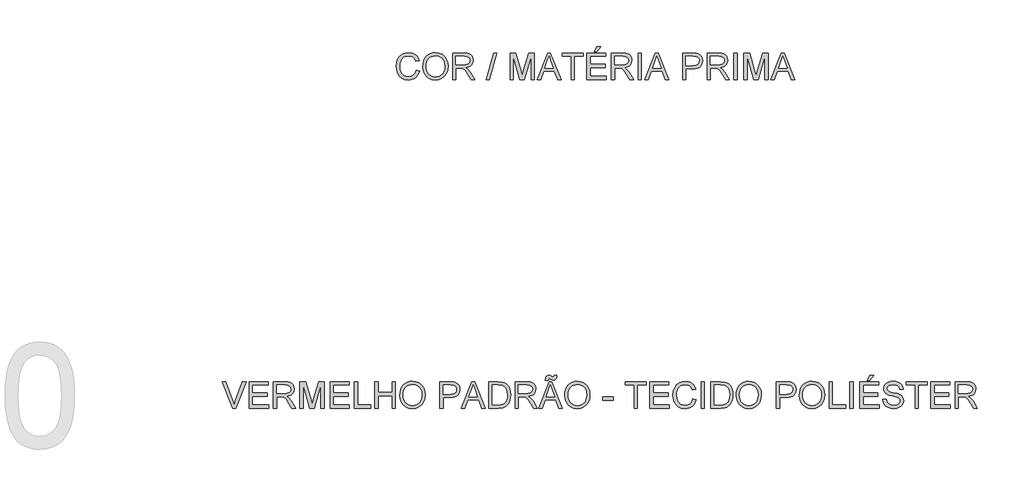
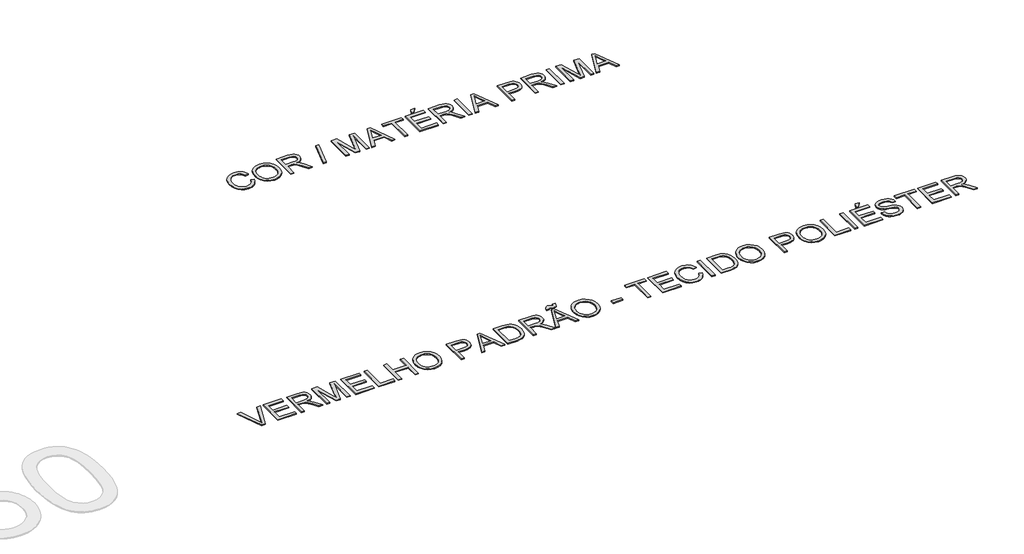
# One storey, part 26 of 35: 2 proxies.
"""IFC4 building model written with IfcOpenShell, lengths in millimetres."""

from ifc_helpers import new_model, si_unit, origin, origin_with_axes, place, context, project, spatial, polyline, outline, extrude, element, save

model = new_model("IFC4")

# Units and contexts
model_context = context("Model", 3, world=origin())
ifc_project = project(units=[si_unit("LENGTHUNIT", "METRE", prefix="MILLI")], contexts=[model_context])

# Site, building, storey
site = spatial("IfcSite", under=ifc_project)
building = spatial("IfcBuilding", under=site)
storey = spatial("IfcBuildingStorey", under=building, Name="Marelli - Linha YOU - Planta Baixa", Elevation=0.0)

# Proxies
placement = place(None, origin())
element("IfcBuildingElementProxy", 1, Name="300mm Arial", ObjectType="300mm Arial", at=placement, inside=storey, context=model_context, shape_type="SweptSolid", body=[
    extrude(outline(polyline([(-20789.4399329, -20030.5663201), (-20909.3694633, -19729.1973896), (-20869.0495966, -19729.1973896), (-20788.7777453, -19946.3213432), (-20772.5173611, -19995.2496485), (-20756.4777061, -19946.3213432), (-20675.9851255, -19729.1973896), (-20635.6652589, -19729.1973896), (-20750.5180178, -20030.5663201), (-20789.4399329, -20030.5663201)])), origin_with_axes(), (0.0, 0.0, 1.0), 10.0),
    extrude(outline(polyline([(-20600.6428929, -20030.5663201), (-20600.6428929, -19729.1973896), (-20384.0339742, -19729.1973896), (-20384.0339742, -19766.8685059), (-20562.9717766, -19766.8685059), (-20562.9717766, -19856.3374072), (-20393.4517532, -19856.3374072), (-20393.4517532, -19894.0085235), (-20562.9717766, -19894.0085235), (-20562.9717766, -19992.8952038), (-20379.3250846, -19992.8952038), (-20379.3250846, -20030.5663201), (-20600.6428929, -20030.5663201)])), origin_with_axes(), (0.0, 0.0, 1.0), 10.0),
    extrude(outline(polyline([(-20322.8184102, -20030.5663201), (-20322.8184102, -19729.1973896), (-20192.9560659, -19729.1973896), (-20158.0532616, -19731.2299376), (-20132.6602069, -19737.3275817), (-20114.1005602, -19748.5847708), (-20099.6979801, -19766.0959537), (-20090.454945, -19787.8101885), (-20087.3739333, -19811.6765329), (-20092.4782959, -19841.3646099), (-20107.791384, -19865.9759154), (-20119.3911631, -19876.0052983), (-20133.7730499, -19884.0205273), (-20170.8831462, -19894.0085235), (-20149.472414, -19910.1217548), (-20118.9382084, -19948.8965171), (-20068.6855279, -20030.5663201), (-20112.4634853, -20030.5663201), (-20151.679706, -19968.0999573), (-20180.0066196, -19926.750021), (-20199.9090356, -19907.2154871), (-20217.8248887, -19900.0417882), (-20239.6770793, -19898.717413), (-20285.1472939, -19898.717413), (-20285.1472939, -20030.5663201), (-20322.8184102, -20030.5663201)]), holes=[polyline([(-20285.1472939, -19861.0462967), (-20200.8287406, -19861.0462967), (-20176.6129082, -19859.7127245), (-20157.8233353, -19855.7120078), (-20143.6782726, -19848.7774322), (-20133.3959709, -19838.6422832), (-20127.1327799, -19826.3826157), (-20125.0450496, -19813.0744845), (-20129.0273722, -19794.6987789), (-20140.97434, -19779.8915286), (-20161.5297464, -19770.1242616), (-20191.3373851, -19766.8685059), (-20285.1472939, -19766.8685059), (-20285.1472939, -19861.0462967)])]), origin_with_axes(), (0.0, 0.0, 1.0), 10.0),
    extrude(outline(polyline([(-20021.4494797, -20030.5663201), (-20021.4494797, -19729.1973896), (-19956.6286722, -19729.1973896), (-19894.9716498, -19941.6124536), (-19882.5372383, -19985.9790223), (-19869.0727573, -19937.9336337), (-19808.4458045, -19729.1973896), (-19743.624997, -19729.1973896), (-19743.624997, -20030.5663201), (-19781.2961133, -20030.5663201), (-19781.2961133, -19766.8685059), (-19857.0062279, -20030.5663201), (-19908.0682488, -20030.5663201), (-19983.7783634, -19766.8685059), (-19983.7783634, -20030.5663201), (-20021.4494797, -20030.5663201)])), origin_with_axes(), (0.0, 0.0, 1.0), 10.0),
    extrude(outline(polyline([(-19677.7005434, -20030.5663201), (-19677.7005434, -19729.1973896), (-19461.0916247, -19729.1973896), (-19461.0916247, -19766.8685059), (-19640.0294271, -19766.8685059), (-19640.0294271, -19856.3374072), (-19470.5094037, -19856.3374072), (-19470.5094037, -19894.0085235), (-19640.0294271, -19894.0085235), (-19640.0294271, -19992.8952038), (-19456.3827351, -19992.8952038), (-19456.3827351, -20030.5663201), (-19677.7005434, -20030.5663201)])), origin_with_axes(), (0.0, 0.0, 1.0), 10.0),
    extrude(outline(polyline([(-19399.8760607, -20030.5663201), (-19399.8760607, -19729.1973896), (-19362.2049444, -19729.1973896), (-19362.2049444, -19992.8952038), (-19211.5204791, -19992.8952038), (-19211.5204791, -20030.5663201), (-19399.8760607, -20030.5663201)])), origin_with_axes(), (0.0, 0.0, 1.0), 10.0),
    extrude(outline(polyline([(-19169.1404733, -20030.5663201), (-19169.1404733, -19729.1973896), (-19131.469357, -19729.1973896), (-19131.469357, -19851.6285176), (-18971.3671127, -19851.6285176), (-18971.3671127, -19729.1973896), (-18933.6959964, -19729.1973896), (-18933.6959964, -20030.5663201), (-18971.3671127, -20030.5663201), (-18971.3671127, -19889.2996339), (-19131.469357, -19889.2996339), (-19131.469357, -20030.5663201), (-19169.1404733, -20030.5663201)])), origin_with_axes(), (0.0, 0.0, 1.0), 10.0),
    extrude(outline(polyline([(-18881.8982115, -19883.8549804), (-18879.3874168, -19848.5061192), (-18871.855033, -19817.213157), (-18859.3010599, -19789.9760937), (-18841.7254976, -19766.7949295), (-18820.1814082, -19748.2858666), (-18795.7218541, -19735.0651074), (-18768.3468351, -19727.1326519), (-18738.0563513, -19724.4885001), (-18698.527431, -19729.454907), (-18663.0820007, -19744.3541278), (-18633.6514411, -19768.1376988), (-18612.1671326, -19799.7571563), (-18599.0337454, -19837.68579), (-18594.6559496, -19880.3968896), (-18599.2636716, -19923.6782064), (-18613.0868376, -19962.140269), (-18635.3620924, -19993.8149087), (-18665.3260809, -20016.733957), (-18700.4680085, -20030.6398965), (-18738.2770805, -20035.2752096), (-18778.4130062, -20030.1524528), (-18814.0607716, -20014.7841825), (-18843.4177548, -19990.5591531), (-18864.6813341, -19958.8661192), (-18877.5939921, -19922.3998164), (-18881.8982115, -19883.8549804)]), holes=[polyline([(-18844.2270952, -19884.2228624), (-18842.3439992, -19909.1974513), (-18836.6947113, -19931.3669401), (-18827.2792315, -19950.7313286), (-18814.0975597, -19967.2906169), (-18798.0739996, -19980.5527628), (-18780.1328545, -19990.0257242), (-18760.2741246, -19995.709501), (-18738.4978097, -19997.6040933), (-18716.3490144, -19995.6911069), (-18696.2557596, -19989.9521478), (-18678.2180456, -19980.3872159), (-18662.2358721, -19966.9963113), (-18649.1507694, -19950.0875351), (-18639.8042675, -19929.9689885), (-18634.1963663, -19906.6406715), (-18632.3270659, -19880.102584), (-18635.5276393, -19846.7540812), (-18645.1293594, -19817.9305269), (-18660.8839058, -19794.358488), (-18682.5429583, -19776.7645316), (-18708.671777, -19765.8108452), (-18737.8356221, -19762.1596164), (-18758.8554796, -19763.9185522), (-18778.3578239, -19769.1953595), (-18796.342655, -19777.9900385), (-18812.8099728, -19790.302589), (-18826.5549638, -19806.7262208), (-18836.3728146, -19827.8541437), (-18842.263525, -19853.6863575), (-18844.2270952, -19884.2228624)])]), origin_with_axes(), (0.0, 0.0, 1.0), 10.0),
    extrude(outline(polyline([(-18425.1359262, -20030.5663201), (-18425.1359262, -19729.1973896), (-18313.4469525, -19729.1973896), (-18268.4181963, -19732.0668692), (-18248.3410364, -19737.4287493), (-18231.8139378, -19746.1567496), (-18218.5058066, -19758.6463433), (-18208.0855491, -19775.2930036), (-18201.3533086, -19794.9287051), (-18199.1092284, -19816.3854225), (-18200.6244424, -19834.8852883), (-18205.1700843, -19851.9044291), (-18212.7461541, -19867.4428449), (-18223.3526519, -19881.5005356), (-18237.9138811, -19893.1531978), (-18257.3541453, -19901.476528), (-18281.6734444, -19906.470526), (-18310.8717785, -19908.1351921), (-18387.4648099, -19908.1351921), (-18387.4648099, -20030.5663201), (-18425.1359262, -20030.5663201)]), holes=[polyline([(-18387.4648099, -19870.4640758), (-18308.6644866, -19870.4640758), (-18275.2608014, -19867.005985), (-18253.1878817, -19856.6317127), (-18240.882229, -19839.9850525), (-18236.7803447, -19817.7097977), (-18239.1991688, -19800.7872259), (-18246.4556412, -19786.5134045), (-18257.6484509, -19775.7712502), (-18271.8762871, -19769.4436799), (-18309.5474034, -19766.8685059), (-18387.4648099, -19766.8685059), (-18387.4648099, -19870.4640758)])]), origin_with_axes(), (0.0, 0.0, 1.0), 10.0),
    extrude(outline(polyline([(-18182.4073858, -20030.5663201), (-18062.1099734, -19729.1973896), (-18030.0306634, -19729.1973896), (-17909.733251, -20030.5663201), (-17949.5380829, -20030.5663201), (-17984.045414, -19936.3885293), (-18108.1687992, -19936.3885293), (-18142.602554, -20030.5663201), (-18182.4073858, -20030.5663201)]), holes=[polyline([(-18094.3364362, -19898.717413), (-17997.8042007, -19898.717413), (-18024.9538919, -19824.6259792), (-18046.0703184, -19766.8685059), (-18064.8323002, -19818.1512561), (-18094.3364362, -19898.717413)])]), origin_with_axes(), (0.0, 0.0, 1.0), 10.0),
    extrude(outline(polyline([(-17869.4869607, -20030.5663201), (-17869.4869607, -19729.1973896), (-17765.5235089, -19729.1973896), (-17711.7391612, -19733.5383972), (-17687.7164669, -19741.9077126), (-17667.446169, -19755.0962821), (-17646.605654, -19778.0521186), (-17631.7616155, -19806.5997614), (-17622.8772653, -19840.1873876), (-17619.9158152, -19878.2631741), (-17621.9207721, -19910.6091985), (-17627.9356427, -19939.0740679), (-17637.0959044, -19963.3082943), (-17648.5370344, -19982.9623899), (-17661.7072099, -19998.477813), (-17676.0546077, -20010.2960221), (-17692.526524, -20019.0608107), (-17712.070255, -20025.4159721), (-17760.5203138, -20030.5663201), (-17869.4869607, -20030.5663201)]), holes=[polyline([(-17831.8158444, -19992.8952038), (-17765.1556269, -19992.8952038), (-17737.5828714, -19991.5340404), (-17716.6687799, -19987.4505502), (-17700.8866423, -19980.8838566), (-17688.7097483, -19972.0730828), (-17675.6223463, -19955.7667134), (-17665.7907, -19934.6594839), (-17659.6378736, -19908.6594239), (-17657.5869315, -19877.6745629), (-17661.6060423, -19836.6189322), (-17673.6633747, -19806.3054558), (-17691.4780603, -19785.4833349), (-17712.7692308, -19772.9017706), (-17734.4374803, -19768.3768221), (-17766.1856965, -19766.8685059), (-17831.8158444, -19766.8685059), (-17831.8158444, -19992.8952038)])]), origin_with_axes(), (0.0, 0.0, 1.0), 10.0),
    extrude(outline(polyline([(-17568.1180303, -20030.5663201), (-17568.1180303, -19729.1973896), (-17438.255686, -19729.1973896), (-17403.3528817, -19731.2299376), (-17377.959827, -19737.3275817), (-17359.4001803, -19748.5847708), (-17344.9976002, -19766.0959537), (-17335.7545651, -19787.8101885), (-17332.6735534, -19811.6765329), (-17337.7779161, -19841.3646099), (-17353.0910041, -19865.9759154), (-17364.6907833, -19876.0052983), (-17379.07267, -19884.0205273), (-17416.1827663, -19894.0085235), (-17394.7720342, -19910.1217548), (-17364.2378286, -19948.8965171), (-17313.985148, -20030.5663201), (-17357.7631054, -20030.5663201), (-17396.9793261, -19968.0999573), (-17425.3062398, -19926.750021), (-17445.2086557, -19907.2154871), (-17463.1245089, -19900.0417882), (-17484.9766994, -19898.717413), (-17530.446914, -19898.717413), (-17530.446914, -20030.5663201), (-17568.1180303, -20030.5663201)]), holes=[polyline([(-17530.446914, -19861.0462967), (-17446.1283607, -19861.0462967), (-17421.9125284, -19859.7127245), (-17403.1229554, -19855.7120078), (-17388.9778927, -19848.7774322), (-17378.695591, -19838.6422832), (-17372.4324, -19826.3826157), (-17370.3446697, -19813.0744845), (-17374.3269923, -19794.6987789), (-17386.2739601, -19779.8915286), (-17406.8293666, -19770.1242616), (-17436.6370052, -19766.8685059), (-17530.446914, -19766.8685059), (-17530.446914, -19861.0462967)])]), origin_with_axes(), (0.0, 0.0, 1.0), 10.0),
    extrude(outline(polyline([(-17224.369094, -19710.3618315), (-17221.5180085, -19687.2036599), (-17212.6704465, -19669.2326244), (-17199.3347242, -19657.6995239), (-17182.7248521, -19653.855157), (-17168.8189127, -19656.8901835), (-17152.5585285, -19665.9952628), (-17137.3282139, -19672.6907152), (-17129.3451746, -19668.9015306), (-17125.4824137, -19653.855157), (-17092.5201869, -19653.855157), (-17095.8035337, -19678.5768271), (-17104.4763518, -19696.2351629), (-17117.3798127, -19706.8301643), (-17133.3550884, -19710.3618315), (-17147.3529983, -19707.4923519), (-17163.15353, -19698.8839132), (-17179.0460322, -19691.5262733), (-17188.0223529, -19696.3087393), (-17191.4068672, -19710.3618315), (-17224.369094, -19710.3618315)])), origin_with_axes(), (0.0, 0.0, 1.0), 10.0),
    extrude(outline(polyline([(-17301.8450422, -20030.5663201), (-17181.5476298, -19729.1973896), (-17149.4683198, -19729.1973896), (-17029.1709074, -20030.5663201), (-17068.9757392, -20030.5663201), (-17103.4830704, -19936.3885293), (-17227.6064555, -19936.3885293), (-17262.0402103, -20030.5663201), (-17301.8450422, -20030.5663201)]), holes=[polyline([(-17213.7740925, -19898.717413), (-17117.241857, -19898.717413), (-17144.3915482, -19824.6259792), (-17165.5079748, -19766.8685059), (-17184.2699565, -19818.1512561), (-17213.7740925, -19898.717413)])]), origin_with_axes(), (0.0, 0.0, 1.0), 10.0),
    extrude(outline(polyline([(-17003.0512857, -19883.8549804), (-17000.5404911, -19848.5061192), (-16993.0081072, -19817.213157), (-16980.4541341, -19789.9760937), (-16962.8785718, -19766.7949295), (-16941.3344825, -19748.2858666), (-16916.8749283, -19735.0651074), (-16889.4999094, -19727.1326519), (-16859.2094256, -19724.4885001), (-16819.6805052, -19729.454907), (-16784.235075, -19744.3541278), (-16754.8045153, -19768.1376988), (-16733.3202068, -19799.7571563), (-16720.1868196, -19837.68579), (-16715.8090239, -19880.3968896), (-16720.4167458, -19923.6782064), (-16734.2399118, -19962.140269), (-16756.5151666, -19993.8149087), (-16786.4791551, -20016.733957), (-16821.6210827, -20030.6398965), (-16859.4301548, -20035.2752096), (-16899.5660805, -20030.1524528), (-16935.2138458, -20014.7841825), (-16964.570829, -19990.5591531), (-16985.8344083, -19958.8661192), (-16998.7470664, -19922.3998164), (-17003.0512857, -19883.8549804)]), holes=[polyline([(-16965.3801694, -19884.2228624), (-16963.4970734, -19909.1974513), (-16957.8477855, -19931.3669401), (-16948.4323057, -19950.7313286), (-16935.250634, -19967.2906169), (-16919.2270738, -19980.5527628), (-16901.2859288, -19990.0257242), (-16881.4271988, -19995.709501), (-16859.650884, -19997.6040933), (-16837.5020886, -19995.6911069), (-16817.4088339, -19989.9521478), (-16799.3711198, -19980.3872159), (-16783.3889464, -19966.9963113), (-16770.3038437, -19950.0875351), (-16760.9573417, -19929.9689885), (-16755.3494406, -19906.6406715), (-16753.4801402, -19880.102584), (-16756.6807135, -19846.7540812), (-16766.2824336, -19817.9305269), (-16782.03698, -19794.358488), (-16803.6960325, -19776.7645316), (-16829.8248512, -19765.8108452), (-16858.9886964, -19762.1596164), (-16880.0085539, -19763.9185522), (-16899.5108982, -19769.1953595), (-16917.4957292, -19777.9900385), (-16933.963047, -19790.302589), (-16947.708038, -19806.7262208), (-16957.5258888, -19827.8541437), (-16963.4165992, -19853.6863575), (-16965.3801694, -19884.2228624)])]), origin_with_axes(), (0.0, 0.0, 1.0), 10.0),
    extrude(outline(polyline([(-16569.8334482, -19941.0974188), (-16569.8334482, -19903.4263025), (-16452.1112097, -19903.4263025), (-16452.1112097, -19941.0974188), (-16569.8334482, -19941.0974188)])), origin_with_axes(), (0.0, 0.0, 1.0), 10.0),
    extrude(outline(polyline([(-16211.9578433, -20030.5663201), (-16211.9578433, -19766.8685059), (-16310.8445236, -19766.8685059), (-16310.8445236, -19729.1973896), (-16075.4000467, -19729.1973896), (-16075.4000467, -19766.8685059), (-16174.286727, -19766.8685059), (-16174.286727, -20030.5663201), (-16211.9578433, -20030.5663201)])), origin_with_axes(), (0.0, 0.0, 1.0), 10.0),
    extrude(outline(polyline([(-16033.0200408, -20030.5663201), (-16033.0200408, -19729.1973896), (-15816.4111221, -19729.1973896), (-15816.4111221, -19766.8685059), (-15995.3489245, -19766.8685059), (-15995.3489245, -19856.3374072), (-15825.8289011, -19856.3374072), (-15825.8289011, -19894.0085235), (-15995.3489245, -19894.0085235), (-15995.3489245, -19992.8952038), (-15811.7022325, -19992.8952038), (-15811.7022325, -20030.5663201), (-16033.0200408, -20030.5663201)])), origin_with_axes(), (0.0, 0.0, 1.0), 10.0),
    extrude(outline(polyline([(-15543.2955288, -19923.4390831), (-15505.6244125, -19933.1511677), (-15513.0786215, -19956.5783531), (-15523.0068368, -19977.0486868), (-15535.4090586, -19994.5621691), (-15550.2852867, -20009.1187997), (-15567.299829, -20020.5622291), (-15586.1169931, -20028.7361071), (-15606.7367789, -20033.640434), (-15629.1591865, -20035.2752096), (-15672.8543705, -20030.3271968), (-15707.5548397, -20015.4831583), (-15734.1527079, -19991.2581289), (-15753.5400891, -19958.1671434), (-15765.3766923, -19919.2636224), (-15769.3222267, -19877.6009865), (-15764.8616575, -19833.6574821), (-15751.4799499, -19795.7104543), (-15729.8760797, -19764.9647166), (-15700.7490228, -19742.6250824), (-15666.2049034, -19729.0226457), (-15628.3498461, -19724.4885001), (-15587.0458951, -19730.3562179), (-15569.0771589, -19737.6908652), (-15552.8972489, -19747.9593714), (-15538.7728796, -19760.8904235), (-15526.9707653, -19776.2127086), (-15510.3333021, -19814.0309777), (-15548.0044184, -19823.0072984), (-15561.0642292, -19795.5357104), (-15578.906506, -19776.6909552), (-15601.7519779, -19765.7924511), (-15629.8213741, -19762.1596164), (-15662.1765956, -19766.1879242), (-15688.7560697, -19778.2728478), (-15708.9252001, -19797.1451941), (-15722.0493903, -19821.5357704), (-15729.2506803, -19849.1085259), (-15731.6511104, -19877.5274101), (-15728.809222, -19912.3290468), (-15720.2835567, -19942.421794), (-15705.7522179, -19966.6560205), (-15684.8933088, -19983.8820949), (-15659.8865302, -19994.1735937), (-15632.9115829, -19997.6040933), (-15601.4668693, -19992.931992), (-15575.2644742, -19978.9156879), (-15555.4816199, -19955.702334), (-15543.2955288, -19923.4390831)])), origin_with_axes(), (0.0, 0.0, 1.0), 10.0),
    extrude(outline(polyline([(-15449.1177381, -20030.5663201), (-15449.1177381, -19729.1973896), (-15411.4466218, -19729.1973896), (-15411.4466218, -20030.5663201), (-15449.1177381, -20030.5663201)])), origin_with_axes(), (0.0, 0.0, 1.0), 10.0),
    extrude(outline(polyline([(-15336.1043891, -20030.5663201), (-15336.1043891, -19729.1973896), (-15232.1409373, -19729.1973896), (-15178.3565896, -19733.5383972), (-15154.3338953, -19741.9077126), (-15134.0635974, -19755.0962821), (-15113.2230824, -19778.0521186), (-15098.3790439, -19806.5997614), (-15089.4946937, -19840.1873876), (-15086.5332436, -19878.2631741), (-15088.5382005, -19910.6091985), (-15094.5530711, -19939.0740679), (-15103.7133328, -19963.3082943), (-15115.1544628, -19982.9623899), (-15128.3246383, -19998.477813), (-15142.6720361, -20010.2960221), (-15159.1439524, -20019.0608107), (-15178.6876834, -20025.4159721), (-15227.1377422, -20030.5663201), (-15336.1043891, -20030.5663201)]), holes=[polyline([(-15298.4332728, -19992.8952038), (-15231.7730553, -19992.8952038), (-15204.2002998, -19991.5340404), (-15183.2862084, -19987.4505502), (-15167.5040708, -19980.8838566), (-15155.3271767, -19972.0730828), (-15142.2397747, -19955.7667134), (-15132.4081284, -19934.6594839), (-15126.2553021, -19908.6594239), (-15124.2043599, -19877.6745629), (-15128.2234707, -19836.6189322), (-15140.2808031, -19806.3054558), (-15158.0954887, -19785.4833349), (-15179.3866592, -19772.9017706), (-15201.0549087, -19768.3768221), (-15232.8031249, -19766.8685059), (-15298.4332728, -19766.8685059), (-15298.4332728, -19992.8952038)])]), origin_with_axes(), (0.0, 0.0, 1.0), 10.0),
    extrude(outline(polyline([(-15048.8621273, -19883.8549804), (-15046.3513327, -19848.5061192), (-15038.8189488, -19817.213157), (-15026.2649758, -19789.9760937), (-15008.6894134, -19766.7949295), (-14987.1453241, -19748.2858666), (-14962.6857699, -19735.0651074), (-14935.310751, -19727.1326519), (-14905.0202672, -19724.4885001), (-14865.4913468, -19729.454907), (-14830.0459166, -19744.3541278), (-14800.615357, -19768.1376988), (-14779.1310485, -19799.7571563), (-14765.9976612, -19837.68579), (-14761.6198655, -19880.3968896), (-14766.2275875, -19923.6782064), (-14780.0507534, -19962.140269), (-14802.3260082, -19993.8149087), (-14832.2899968, -20016.733957), (-14867.4319243, -20030.6398965), (-14905.2409964, -20035.2752096), (-14945.3769221, -20030.1524528), (-14981.0246874, -20014.7841825), (-15010.3816706, -19990.5591531), (-15031.6452499, -19958.8661192), (-15044.557908, -19922.3998164), (-15048.8621273, -19883.8549804)]), holes=[polyline([(-15011.191011, -19884.2228624), (-15009.307915, -19909.1974513), (-15003.6586272, -19931.3669401), (-14994.2431473, -19950.7313286), (-14981.0614756, -19967.2906169), (-14965.0379155, -19980.5527628), (-14947.0967704, -19990.0257242), (-14927.2380404, -19995.709501), (-14905.4617256, -19997.6040933), (-14883.3129302, -19995.6911069), (-14863.2196755, -19989.9521478), (-14845.1819614, -19980.3872159), (-14829.199788, -19966.9963113), (-14816.1146853, -19950.0875351), (-14806.7681833, -19929.9689885), (-14801.1602822, -19906.6406715), (-14799.2909818, -19880.102584), (-14802.4915551, -19846.7540812), (-14812.0932752, -19817.9305269), (-14827.8478217, -19794.358488), (-14849.5068741, -19776.7645316), (-14875.6356928, -19765.8108452), (-14904.799538, -19762.1596164), (-14925.8193955, -19763.9185522), (-14945.3217398, -19769.1953595), (-14963.3065708, -19777.9900385), (-14979.7738886, -19790.302589), (-14993.5188797, -19806.7262208), (-15003.3367304, -19827.8541437), (-15009.2274409, -19853.6863575), (-15011.191011, -19884.2228624)])]), origin_with_axes(), (0.0, 0.0, 1.0), 10.0),
    extrude(outline(polyline([(-14592.0998421, -20030.5663201), (-14592.0998421, -19729.1973896), (-14480.4108684, -19729.1973896), (-14435.3821122, -19732.0668692), (-14415.3049523, -19737.4287493), (-14398.7778536, -19746.1567496), (-14385.4697225, -19758.6463433), (-14375.0494649, -19775.2930036), (-14368.3172244, -19794.9287051), (-14366.0731443, -19816.3854225), (-14367.5883582, -19834.8852883), (-14372.1340001, -19851.9044291), (-14379.71007, -19867.4428449), (-14390.3165677, -19881.5005356), (-14404.877797, -19893.1531978), (-14424.3180612, -19901.476528), (-14448.6373603, -19906.470526), (-14477.8356944, -19908.1351921), (-14554.4287258, -19908.1351921), (-14554.4287258, -20030.5663201), (-14592.0998421, -20030.5663201)]), holes=[polyline([(-14554.4287258, -19870.4640758), (-14475.6284024, -19870.4640758), (-14442.2247173, -19867.005985), (-14420.1517976, -19856.6317127), (-14407.8461448, -19839.9850525), (-14403.7442606, -19817.7097977), (-14406.1630847, -19800.7872259), (-14413.419557, -19786.5134045), (-14424.6123667, -19775.7712502), (-14438.8402029, -19769.4436799), (-14476.5113192, -19766.8685059), (-14554.4287258, -19766.8685059), (-14554.4287258, -19870.4640758)])]), origin_with_axes(), (0.0, 0.0, 1.0), 10.0),
    extrude(outline(polyline([(-14328.402028, -19883.8549804), (-14325.8912333, -19848.5061192), (-14318.3588495, -19817.213157), (-14305.8048764, -19789.9760937), (-14288.2293141, -19766.7949295), (-14266.6852247, -19748.2858666), (-14242.2256706, -19735.0651074), (-14214.8506516, -19727.1326519), (-14184.5601678, -19724.4885001), (-14145.0312475, -19729.454907), (-14109.5858172, -19744.3541278), (-14080.1552576, -19768.1376988), (-14058.6709491, -19799.7571563), (-14045.5375619, -19837.68579), (-14041.1597661, -19880.3968896), (-14045.7674881, -19923.6782064), (-14059.5906541, -19962.140269), (-14081.8659089, -19993.8149087), (-14111.8298974, -20016.733957), (-14146.971825, -20030.6398965), (-14184.780897, -20035.2752096), (-14224.9168227, -20030.1524528), (-14260.5645881, -20014.7841825), (-14289.9215713, -19990.5591531), (-14311.1851506, -19958.8661192), (-14324.0978086, -19922.3998164), (-14328.402028, -19883.8549804)]), holes=[polyline([(-14290.7309117, -19884.2228624), (-14288.8478157, -19909.1974513), (-14283.1985278, -19931.3669401), (-14273.783048, -19950.7313286), (-14260.6013762, -19967.2906169), (-14244.5778161, -19980.5527628), (-14226.636671, -19990.0257242), (-14206.7779411, -19995.709501), (-14185.0016262, -19997.6040933), (-14162.8528309, -19995.6911069), (-14142.7595761, -19989.9521478), (-14124.7218621, -19980.3872159), (-14108.7396886, -19966.9963113), (-14095.6545859, -19950.0875351), (-14086.308084, -19929.9689885), (-14080.7001828, -19906.6406715), (-14078.8308824, -19880.102584), (-14082.0314558, -19846.7540812), (-14091.6331759, -19817.9305269), (-14107.3877223, -19794.358488), (-14129.0467748, -19776.7645316), (-14155.1755935, -19765.8108452), (-14184.3394386, -19762.1596164), (-14205.3592961, -19763.9185522), (-14224.8616404, -19769.1953595), (-14242.8464715, -19777.9900385), (-14259.3137893, -19790.302589), (-14273.0587803, -19806.7262208), (-14282.8766311, -19827.8541437), (-14288.7673415, -19853.6863575), (-14290.7309117, -19884.2228624)])]), origin_with_axes(), (0.0, 0.0, 1.0), 10.0),
    extrude(outline(polyline([(-13989.3619812, -20030.5663201), (-13989.3619812, -19729.1973896), (-13951.6908649, -19729.1973896), (-13951.6908649, -19992.8952038), (-13801.0063997, -19992.8952038), (-13801.0063997, -20030.5663201), (-13989.3619812, -20030.5663201)])), origin_with_axes(), (0.0, 0.0, 1.0), 10.0),
    extrude(outline(polyline([(-13753.9175043, -20030.5663201), (-13753.9175043, -19729.1973896), (-13716.246388, -19729.1973896), (-13716.246388, -20030.5663201), (-13753.9175043, -20030.5663201)])), origin_with_axes(), (0.0, 0.0, 1.0), 10.0),
    extrude(outline(polyline([(-13640.9041554, -20030.5663201), (-13640.9041554, -19729.1973896), (-13424.2952366, -19729.1973896), (-13424.2952366, -19766.8685059), (-13603.2330391, -19766.8685059), (-13603.2330391, -19856.3374072), (-13433.7130157, -19856.3374072), (-13433.7130157, -19894.0085235), (-13603.2330391, -19894.0085235), (-13603.2330391, -19992.8952038), (-13419.5863471, -19992.8952038), (-13419.5863471, -20030.5663201), (-13640.9041554, -20030.5663201)])), origin_with_axes(), (0.0, 0.0, 1.0), 10.0),
    extrude(outline(polyline([(-13556.1441437, -19710.3618315), (-13527.8908065, -19653.855157), (-13480.8019111, -19653.855157), (-13527.8908065, -19710.3618315), (-13556.1441437, -19710.3618315)])), origin_with_axes(), (0.0, 0.0, 1.0), 10.0),
    extrude(outline(polyline([(-13377.2063412, -19926.9707502), (-13339.5352249, -19926.9707502), (-13335.2126115, -19947.8756446), (-13327.3951191, -19964.6786547), (-13315.1998309, -19978.0143771), (-13297.7438303, -19988.517408), (-13276.4066746, -19995.332422), (-13252.5679213, -19997.6040933), (-13231.5802534, -19995.884245), (-13213.2045478, -19990.7247), (-13198.314524, -19982.5577197), (-13187.7839019, -19971.8155654), (-13181.5207109, -19959.4823215), (-13179.4329806, -19946.5420724), (-13180.9964791, -19933.932917), (-13185.6869745, -19923.0344129), (-13195.2151182, -19913.7361954), (-13211.2915614, -19905.9279001), (-13266.1427669, -19891.5437141), (-13302.1492172, -19882.0247675), (-13325.1878271, -19872.9656733), (-13343.9406118, -19860.2921386), (-13357.2303489, -19844.9330653), (-13365.1490088, -19827.2195472), (-13367.7885622, -19807.4826782), (-13364.5236094, -19785.4189555), (-13354.7287513, -19764.845155), (-13338.6615052, -19747.4075484), (-13316.5793884, -19734.7524077), (-13290.0734907, -19727.054477), (-13260.7349016, -19724.4885001), (-13228.9498972, -19727.1740386), (-13201.1380183, -19735.2306543), (-13178.2925464, -19748.4928003), (-13161.4067629, -19766.7949295), (-13150.7197909, -19788.9966079), (-13146.4707539, -19813.9574013), (-13184.1418702, -19813.9574013), (-13191.0580517, -19791.4798114), (-13205.4790259, -19775.2562154), (-13228.0117981, -19765.4337661), (-13259.2633736, -19762.1596164), (-13291.2507131, -19765.3969779), (-13313.1948741, -19775.1090626), (-13325.8868029, -19789.4012781), (-13330.1174458, -19806.3790322), (-13327.1192076, -19820.8551887), (-13318.1244928, -19832.4986539), (-13296.8609135, -19842.9097143), (-13256.6146232, -19853.541504), (-13215.080746, -19863.6398648), (-13189.9544057, -19872.4506385), (-13168.4792942, -19886.1174547), (-13153.4973, -19902.9848441), (-13144.6957232, -19922.868866), (-13141.7618643, -19945.5855792), (-13145.1371816, -19968.8081301), (-13155.2631335, -19990.6511236), (-13171.7258528, -20009.4498935), (-13194.1114722, -20023.539774), (-13221.0312372, -20032.3413507), (-13251.0963933, -20035.2752096), (-13288.0041545, -20032.1114244), (-13318.3820102, -20022.620069), (-13342.5794484, -20006.764355), (-13360.945957, -19984.5074943), (-13372.736575, -19957.3945912), (-13377.2063412, -19926.9707502)])), origin_with_axes(), (0.0, 0.0, 1.0), 10.0),
    extrude(outline(polyline([(-13009.9129572, -20030.5663201), (-13009.9129572, -19766.8685059), (-13108.7996376, -19766.8685059), (-13108.7996376, -19729.1973896), (-12873.3551606, -19729.1973896), (-12873.3551606, -19766.8685059), (-12972.2418409, -19766.8685059), (-12972.2418409, -20030.5663201), (-13009.9129572, -20030.5663201)])), origin_with_axes(), (0.0, 0.0, 1.0), 10.0),
    extrude(outline(polyline([(-12830.9751548, -20030.5663201), (-12830.9751548, -19729.1973896), (-12614.366236, -19729.1973896), (-12614.366236, -19766.8685059), (-12793.3040385, -19766.8685059), (-12793.3040385, -19856.3374072), (-12623.7840151, -19856.3374072), (-12623.7840151, -19894.0085235), (-12793.3040385, -19894.0085235), (-12793.3040385, -19992.8952038), (-12609.6573465, -19992.8952038), (-12609.6573465, -20030.5663201), (-12830.9751548, -20030.5663201)])), origin_with_axes(), (0.0, 0.0, 1.0), 10.0),
    extrude(outline(polyline([(-12553.150672, -20030.5663201), (-12553.150672, -19729.1973896), (-12423.2883277, -19729.1973896), (-12388.3855234, -19731.2299376), (-12362.9924687, -19737.3275817), (-12344.4328221, -19748.5847708), (-12330.030242, -19766.0959537), (-12320.7872068, -19787.8101885), (-12317.7061951, -19811.6765329), (-12322.8105578, -19841.3646099), (-12338.1236459, -19865.9759154), (-12349.723425, -19876.0052983), (-12364.1053118, -19884.0205273), (-12401.215408, -19894.0085235), (-12379.8046759, -19910.1217548), (-12349.2704703, -19948.8965171), (-12299.0177898, -20030.5663201), (-12342.7957472, -20030.5663201), (-12382.0119679, -19968.0999573), (-12410.3388815, -19926.750021), (-12430.2412974, -19907.2154871), (-12448.1571506, -19900.0417882), (-12470.0093411, -19898.717413), (-12515.4795557, -19898.717413), (-12515.4795557, -20030.5663201), (-12553.150672, -20030.5663201)]), holes=[polyline([(-12515.4795557, -19861.0462967), (-12431.1610024, -19861.0462967), (-12406.9451701, -19859.7127245), (-12388.1555972, -19855.7120078), (-12374.0105345, -19848.7774322), (-12363.7282327, -19838.6422832), (-12357.4650418, -19826.3826157), (-12355.3773114, -19813.0744845), (-12359.359634, -19794.6987789), (-12371.3066018, -19779.8915286), (-12391.8620083, -19770.1242616), (-12421.669647, -19766.8685059), (-12515.4795557, -19766.8685059), (-12515.4795557, -19861.0462967)])]), origin_with_axes(), (0.0, 0.0, 1.0), 10.0),
])
element("IfcBuildingElementProxy", 2, Name="300mm Arial", ObjectType="300mm Arial", at=placement, inside=storey, context=model_context, shape_type="SweptSolid", body=[
    extrude(outline(polyline([(-18695.8970747, -16173.4390831), (-18658.2259584, -16183.1511677), (-18665.6801673, -16206.5783531), (-18675.6083827, -16227.0486868), (-18688.0106044, -16244.5621691), (-18702.8868326, -16259.1187997), (-18719.9013749, -16270.5622291), (-18738.7185389, -16278.7361071), (-18759.3383248, -16283.640434), (-18781.7607324, -16285.2752096), (-18825.4559164, -16280.3271968), (-18860.1563855, -16265.4831583), (-18886.7542538, -16241.2581289), (-18906.1416349, -16208.1671434), (-18917.9782381, -16169.2636224), (-18921.9237725, -16127.6009865), (-18917.4632033, -16083.6574821), (-18904.0814958, -16045.7104543), (-18882.4776256, -16014.9647166), (-18853.3505686, -15992.6250824), (-18818.8064493, -15979.0226457), (-18780.951392, -15974.4885001), (-18739.647441, -15980.3562179), (-18721.6787048, -15987.6908652), (-18705.4987948, -15997.9593714), (-18691.3744254, -16010.8904235), (-18679.5723112, -16026.2127086), (-18662.9348479, -16064.0309777), (-18700.6059642, -16073.0072984), (-18713.6657751, -16045.5357104), (-18731.5080518, -16026.6909552), (-18754.3535237, -16015.7924511), (-18782.42292, -16012.1596164), (-18814.7781414, -16016.1879242), (-18841.3576156, -16028.2728478), (-18861.526746, -16047.1451941), (-18874.6509362, -16071.5357704), (-18881.8522262, -16099.1085259), (-18884.2526562, -16127.5274101), (-18881.4107678, -16162.3290468), (-18872.8851026, -16192.421794), (-18858.3537638, -16216.6560205), (-18837.4948546, -16233.8820949), (-18812.488076, -16244.1735937), (-18785.5131287, -16247.6040933), (-18754.0684152, -16242.931992), (-18727.8660201, -16228.9156879), (-18708.0831658, -16205.702334), (-18695.8970747, -16173.4390831)])), origin_with_axes(), (0.0, 0.0, 1.0), 10.0),
    extrude(outline(polyline([(-18620.5548421, -16133.8549804), (-18618.0440475, -16098.5061192), (-18610.5116636, -16067.213157), (-18597.9576905, -16039.9760937), (-18580.3821282, -16016.7949295), (-18558.8380389, -15998.2858666), (-18534.3784847, -15985.0651074), (-18507.0034658, -15977.1326519), (-18476.712982, -15974.4885001), (-18437.1840616, -15979.454907), (-18401.7386314, -15994.3541278), (-18372.3080717, -16018.1376988), (-18350.8237632, -16049.7571563), (-18337.690376, -16087.68579), (-18333.3125803, -16130.3968896), (-18337.9203022, -16173.6782064), (-18351.7434682, -16212.140269), (-18374.018723, -16243.8149087), (-18403.9827115, -16266.733957), (-18439.1246391, -16280.6398965), (-18476.9337112, -16285.2752096), (-18517.0696368, -16280.1524528), (-18552.7174022, -16264.7841825), (-18582.0743854, -16240.5591531), (-18603.3379647, -16208.8661192), (-18616.2506227, -16172.3998164), (-18620.5548421, -16133.8549804)]), holes=[polyline([(-18582.8837258, -16134.2228624), (-18581.0006298, -16159.1974513), (-18575.3513419, -16181.3669401), (-18565.9358621, -16200.7313286), (-18552.7541904, -16217.2906169), (-18536.7306302, -16230.5527628), (-18518.7894852, -16240.0257242), (-18498.9307552, -16245.709501), (-18477.1544404, -16247.6040933), (-18455.005645, -16245.6911069), (-18434.9123903, -16239.9521478), (-18416.8746762, -16230.3872159), (-18400.8925028, -16216.9963113), (-18387.8074001, -16200.0875351), (-18378.4608981, -16179.9689885), (-18372.8529969, -16156.6406715), (-18370.9836966, -16130.102584), (-18374.1842699, -16096.7540812), (-18383.78599, -16067.9305269), (-18399.5405364, -16044.358488), (-18421.1995889, -16026.7645316), (-18447.3284076, -16015.8108452), (-18476.4922528, -16012.1596164), (-18497.5121103, -16013.9185522), (-18517.0144545, -16019.1953595), (-18534.9992856, -16027.9900385), (-18551.4666034, -16040.302589), (-18565.2115944, -16056.7262208), (-18575.0294452, -16077.8541437), (-18580.9201556, -16103.6863575), (-18582.8837258, -16134.2228624)])]), origin_with_axes(), (0.0, 0.0, 1.0), 10.0),
    extrude(outline(polyline([(-18281.5147953, -16280.5663201), (-18281.5147953, -15979.1973896), (-18151.652451, -15979.1973896), (-18116.7496467, -15981.2299376), (-18091.356592, -15987.3275817), (-18072.7969454, -15998.5847708), (-18058.3943653, -16016.0959537), (-18049.1513301, -16037.8101885), (-18046.0703184, -16061.6765329), (-18051.1746811, -16091.3646099), (-18066.4877692, -16115.9759154), (-18078.0875483, -16126.0052983), (-18092.4694351, -16134.0205273), (-18129.5795313, -16144.0085235), (-18108.1687992, -16160.1217548), (-18077.6345936, -16198.8965171), (-18027.3819131, -16280.5663201), (-18071.1598705, -16280.5663201), (-18110.3760912, -16218.0999573), (-18138.7030048, -16176.750021), (-18158.6054207, -16157.2154871), (-18176.5212739, -16150.0417882), (-18198.3734644, -16148.717413), (-18243.843679, -16148.717413), (-18243.843679, -16280.5663201), (-18281.5147953, -16280.5663201)]), holes=[polyline([(-18243.843679, -16111.0462967), (-18159.5251257, -16111.0462967), (-18135.3092934, -16109.7127245), (-18116.5197205, -16105.7120078), (-18102.3746578, -16098.7774322), (-18092.092356, -16088.6422832), (-18085.829165, -16076.3826157), (-18083.7414347, -16063.0744845), (-18087.7237573, -16044.6987789), (-18099.6707251, -16029.8915286), (-18120.2261316, -16020.1242616), (-18150.0337703, -16016.8685059), (-18243.843679, -16016.8685059), (-18243.843679, -16111.0462967)])]), origin_with_axes(), (0.0, 0.0, 1.0), 10.0),
    extrude(outline(polyline([(-17895.3858532, -16280.5663201), (-17810.6258415, -15979.1973896), (-17776.6335452, -15979.1973896), (-17861.3935568, -16280.5663201), (-17895.3858532, -16280.5663201)])), origin_with_axes(), (0.0, 0.0, 1.0), 10.0),
    extrude(outline(polyline([(-17626.9791495, -16280.5663201), (-17626.9791495, -15979.1973896), (-17562.158342, -15979.1973896), (-17500.5013196, -16191.6124536), (-17488.0669081, -16235.9790223), (-17474.6024271, -16187.9336337), (-17413.9754743, -15979.1973896), (-17349.1546668, -15979.1973896), (-17349.1546668, -16280.5663201), (-17386.8257831, -16280.5663201), (-17386.8257831, -16016.8685059), (-17462.5358977, -16280.5663201), (-17513.5979186, -16280.5663201), (-17589.3080332, -16016.8685059), (-17589.3080332, -16280.5663201), (-17626.9791495, -16280.5663201)])), origin_with_axes(), (0.0, 0.0, 1.0), 10.0),
    extrude(outline(polyline([(-17318.3261556, -16280.5663201), (-17198.0287431, -15979.1973896), (-17165.9494332, -15979.1973896), (-17045.6520207, -16280.5663201), (-17085.4568526, -16280.5663201), (-17119.9641838, -16186.3885293), (-17244.0875689, -16186.3885293), (-17278.5213237, -16280.5663201), (-17318.3261556, -16280.5663201)]), holes=[polyline([(-17230.2552059, -16148.717413), (-17133.7229704, -16148.717413), (-17160.8726616, -16074.6259792), (-17181.9890881, -16016.8685059), (-17200.7510699, -16068.1512561), (-17230.2552059, -16148.717413)])]), origin_with_axes(), (0.0, 0.0, 1.0), 10.0),
    extrude(outline(polyline([(-16930.0634979, -16280.5663201), (-16930.0634979, -16016.8685059), (-17028.9501782, -16016.8685059), (-17028.9501782, -15979.1973896), (-16793.5057012, -15979.1973896), (-16793.5057012, -16016.8685059), (-16892.3923815, -16016.8685059), (-16892.3923815, -16280.5663201), (-16930.0634979, -16280.5663201)])), origin_with_axes(), (0.0, 0.0, 1.0), 10.0),
    extrude(outline(polyline([(-16751.1256954, -16280.5663201), (-16751.1256954, -15979.1973896), (-16534.5167766, -15979.1973896), (-16534.5167766, -16016.8685059), (-16713.4545791, -16016.8685059), (-16713.4545791, -16106.3374072), (-16543.9345557, -16106.3374072), (-16543.9345557, -16144.0085235), (-16713.4545791, -16144.0085235), (-16713.4545791, -16242.8952038), (-16529.8078871, -16242.8952038), (-16529.8078871, -16280.5663201), (-16751.1256954, -16280.5663201)])), origin_with_axes(), (0.0, 0.0, 1.0), 10.0),
    extrude(outline(polyline([(-16666.3656837, -15960.3618315), (-16638.1123465, -15903.855157), (-16591.0234511, -15903.855157), (-16638.1123465, -15960.3618315), (-16666.3656837, -15960.3618315)])), origin_with_axes(), (0.0, 0.0, 1.0), 10.0),
    extrude(outline(polyline([(-16473.3012126, -16280.5663201), (-16473.3012126, -15979.1973896), (-16343.4388683, -15979.1973896), (-16308.536064, -15981.2299376), (-16283.1430093, -15987.3275817), (-16264.5833627, -15998.5847708), (-16250.1807826, -16016.0959537), (-16240.9377474, -16037.8101885), (-16237.8567357, -16061.6765329), (-16242.9610984, -16091.3646099), (-16258.2741865, -16115.9759154), (-16269.8739656, -16126.0052983), (-16284.2558524, -16134.0205273), (-16321.3659486, -16144.0085235), (-16299.9552165, -16160.1217548), (-16269.4210109, -16198.8965171), (-16219.1683304, -16280.5663201), (-16262.9462878, -16280.5663201), (-16302.1625085, -16218.0999573), (-16330.4894221, -16176.750021), (-16350.3918381, -16157.2154871), (-16368.3076912, -16150.0417882), (-16390.1598817, -16148.717413), (-16435.6300963, -16148.717413), (-16435.6300963, -16280.5663201), (-16473.3012126, -16280.5663201)]), holes=[polyline([(-16435.6300963, -16111.0462967), (-16351.311543, -16111.0462967), (-16327.0957107, -16109.7127245), (-16308.3061378, -16105.7120078), (-16294.1610751, -16098.7774322), (-16283.8787733, -16088.6422832), (-16277.6155824, -16076.3826157), (-16275.527852, -16063.0744845), (-16279.5101746, -16044.6987789), (-16291.4571424, -16029.8915286), (-16312.0125489, -16020.1242616), (-16341.8201876, -16016.8685059), (-16435.6300963, -16016.8685059), (-16435.6300963, -16111.0462967)])]), origin_with_axes(), (0.0, 0.0, 1.0), 10.0),
    extrude(outline(polyline([(-16167.2233927, -16280.5663201), (-16167.2233927, -15979.1973896), (-16129.5522763, -15979.1973896), (-16129.5522763, -16280.5663201), (-16167.2233927, -16280.5663201)])), origin_with_axes(), (0.0, 0.0, 1.0), 10.0),
    extrude(outline(polyline([(-16089.3059861, -16280.5663201), (-15969.0085737, -15979.1973896), (-15936.9292637, -15979.1973896), (-15816.6318512, -16280.5663201), (-15856.4366831, -16280.5663201), (-15890.9440143, -16186.3885293), (-16015.0673994, -16186.3885293), (-16049.5011542, -16280.5663201), (-16089.3059861, -16280.5663201)]), holes=[polyline([(-16001.2350364, -16148.717413), (-15904.7028009, -16148.717413), (-15931.8524921, -16074.6259792), (-15952.9689187, -16016.8685059), (-15971.7309004, -16068.1512561), (-16001.2350364, -16148.717413)])]), origin_with_axes(), (0.0, 0.0, 1.0), 10.0),
    extrude(outline(polyline([(-15658.6633225, -16280.5663201), (-15658.6633225, -15979.1973896), (-15546.9743488, -15979.1973896), (-15501.9455926, -15982.0668692), (-15481.8684327, -15987.4287493), (-15465.3413341, -15996.1567496), (-15452.0332029, -16008.6463433), (-15441.6129454, -16025.2930036), (-15434.8807049, -16044.9287051), (-15432.6366247, -16066.3854225), (-15434.1518387, -16084.8852883), (-15438.6974806, -16101.9044291), (-15446.2735504, -16117.4428449), (-15456.8800482, -16131.5005356), (-15471.4412774, -16143.1531978), (-15490.8815416, -16151.476528), (-15515.2008407, -16156.470526), (-15544.3991748, -16158.1351921), (-15620.9922062, -16158.1351921), (-15620.9922062, -16280.5663201), (-15658.6633225, -16280.5663201)]), holes=[polyline([(-15620.9922062, -16120.4640758), (-15542.1918828, -16120.4640758), (-15508.7881977, -16117.005985), (-15486.715278, -16106.6317127), (-15474.4096252, -16089.9850525), (-15470.307741, -16067.7097977), (-15472.7265651, -16050.7872259), (-15479.9830375, -16036.5134045), (-15491.1758472, -16025.7712502), (-15505.4036833, -16019.4436799), (-15543.0747996, -16016.8685059), (-15620.9922062, -16016.8685059), (-15620.9922062, -16120.4640758)])]), origin_with_axes(), (0.0, 0.0, 1.0), 10.0),
    extrude(outline(polyline([(-15380.8388398, -16280.5663201), (-15380.8388398, -15979.1973896), (-15250.9764955, -15979.1973896), (-15216.0736912, -15981.2299376), (-15190.6806365, -15987.3275817), (-15172.1209898, -15998.5847708), (-15157.7184097, -16016.0959537), (-15148.4753746, -16037.8101885), (-15145.3943628, -16061.6765329), (-15150.4987255, -16091.3646099), (-15165.8118136, -16115.9759154), (-15177.4115927, -16126.0052983), (-15191.7934795, -16134.0205273), (-15228.9035758, -16144.0085235), (-15207.4928436, -16160.1217548), (-15176.958638, -16198.8965171), (-15126.7059575, -16280.5663201), (-15170.4839149, -16280.5663201), (-15209.7001356, -16218.0999573), (-15238.0270492, -16176.750021), (-15257.9294652, -16157.2154871), (-15275.8453183, -16150.0417882), (-15297.6975089, -16148.717413), (-15343.1677235, -16148.717413), (-15343.1677235, -16280.5663201), (-15380.8388398, -16280.5663201)]), holes=[polyline([(-15343.1677235, -16111.0462967), (-15258.8491702, -16111.0462967), (-15234.6333378, -16109.7127245), (-15215.8437649, -16105.7120078), (-15201.6987022, -16098.7774322), (-15191.4164004, -16088.6422832), (-15185.1532095, -16076.3826157), (-15183.0654792, -16063.0744845), (-15187.0478018, -16044.6987789), (-15198.9947695, -16029.8915286), (-15219.550176, -16020.1242616), (-15249.3578147, -16016.8685059), (-15343.1677235, -16016.8685059), (-15343.1677235, -16111.0462967)])]), origin_with_axes(), (0.0, 0.0, 1.0), 10.0),
    extrude(outline(polyline([(-15074.7610198, -16280.5663201), (-15074.7610198, -15979.1973896), (-15037.0899035, -15979.1973896), (-15037.0899035, -16280.5663201), (-15074.7610198, -16280.5663201)])), origin_with_axes(), (0.0, 0.0, 1.0), 10.0),
    extrude(outline(polyline([(-14961.7476709, -16280.5663201), (-14961.7476709, -15979.1973896), (-14896.9268633, -15979.1973896), (-14835.2698409, -16191.6124536), (-14822.8354295, -16235.9790223), (-14809.3709485, -16187.9336337), (-14748.7439956, -15979.1973896), (-14683.9231881, -15979.1973896), (-14683.9231881, -16280.5663201), (-14721.5943044, -16280.5663201), (-14721.5943044, -16016.8685059), (-14797.304419, -16280.5663201), (-14848.3664399, -16280.5663201), (-14924.0765546, -16016.8685059), (-14924.0765546, -16280.5663201), (-14961.7476709, -16280.5663201)])), origin_with_axes(), (0.0, 0.0, 1.0), 10.0),
    extrude(outline(polyline([(-14653.0946769, -16280.5663201), (-14532.7972645, -15979.1973896), (-14500.7179545, -15979.1973896), (-14380.4205421, -16280.5663201), (-14420.225374, -16280.5663201), (-14454.7327051, -16186.3885293), (-14578.8560903, -16186.3885293), (-14613.289845, -16280.5663201), (-14653.0946769, -16280.5663201)]), holes=[polyline([(-14565.0237273, -16148.717413), (-14468.4914917, -16148.717413), (-14495.641183, -16074.6259792), (-14516.7576095, -16016.8685059), (-14535.5195912, -16068.1512561), (-14565.0237273, -16148.717413)])]), origin_with_axes(), (0.0, 0.0, 1.0), 10.0),
])

save(model, "model.ifc")
